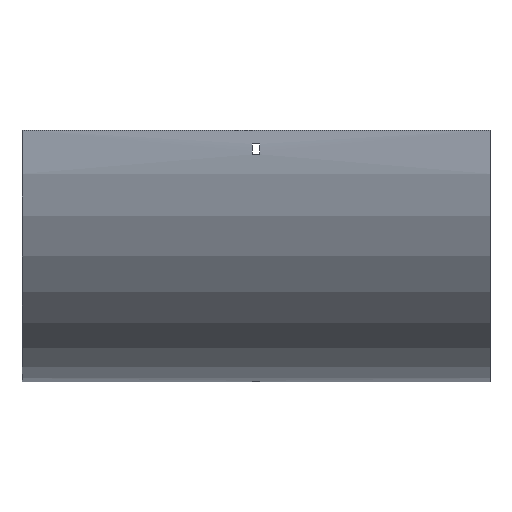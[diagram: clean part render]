
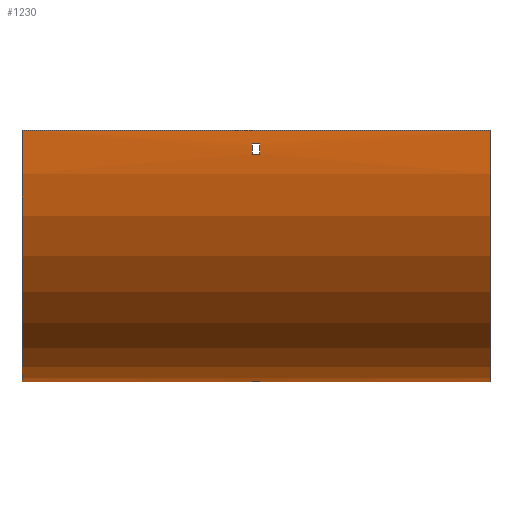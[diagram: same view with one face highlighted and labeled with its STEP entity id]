
A CAD part, front view. The second image highlights one B-rep face of the part: STEP entity #1230.
In plain terms, the highlighted cylindrical face has radius 217.5 mm (diameter 435 mm), a partial arc.
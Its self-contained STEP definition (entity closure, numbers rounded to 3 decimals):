
#11 = FACE_BOUND ( 'NONE', #386, .T. ) ;
#14 = DIRECTION ( 'NONE',  ( 0., 1., 0. ) ) ;
#15 = ORIENTED_EDGE ( 'NONE', *, *, #278, .T. ) ;
#37 = VERTEX_POINT ( 'NONE', #504 ) ;
#39 = DIRECTION ( 'NONE',  ( 1., 0., 0. ) ) ;
#75 = CIRCLE ( 'NONE', #1419, 217.5 ) ;
#78 = DIRECTION ( 'NONE',  ( 1., 0., 0. ) ) ;
#104 = CARTESIAN_POINT ( 'NONE',  ( -3.25, 100., 0. ) ) ;
#119 = EDGE_CURVE ( 'NONE', #1030, #777, #1142, .T. ) ;
#151 = CARTESIAN_POINT ( 'NONE',  ( -202., 100., 0. ) ) ;
#163 = AXIS2_PLACEMENT_3D ( 'NONE', #975, #968, #847 ) ;
#188 = VERTEX_POINT ( 'NONE', #1586 ) ;
#208 = ORIENTED_EDGE ( 'NONE', *, *, #1179, .T. ) ;
#223 = CARTESIAN_POINT ( 'NONE',  ( -3.25, -117.169, -12. ) ) ;
#236 = DIRECTION ( 'NONE',  ( -1., 0., 0. ) ) ;
#271 = DIRECTION ( 'NONE',  ( -1., 0., 0. ) ) ;
#278 = EDGE_CURVE ( 'NONE', #1677, #1139, #481, .T. ) ;
#282 = DIRECTION ( 'NONE',  ( 1., 0., 0. ) ) ;
#306 = CARTESIAN_POINT ( 'NONE',  ( 202., -117.169, -12. ) ) ;
#315 = EDGE_CURVE ( 'NONE', #392, #1139, #364, .T. ) ;
#350 = VECTOR ( 'NONE', #1291, 1000. ) ;
#352 = CARTESIAN_POINT ( 'NONE',  ( 3.25, 100., 0. ) ) ;
#364 = LINE ( 'NONE', #1020, #1447 ) ;
#386 = EDGE_LOOP ( 'NONE', ( #659, #1399, #1083, #1516 ) ) ;
#392 = VERTEX_POINT ( 'NONE', #1285 ) ;
#394 = EDGE_CURVE ( 'NONE', #957, #1644, #1255, .T. ) ;
#429 = CARTESIAN_POINT ( 'NONE',  ( 3.25, 79., -216.484 ) ) ;
#447 = CARTESIAN_POINT ( 'NONE',  ( -3.25, 88., -217.169 ) ) ;
#455 = CIRCLE ( 'NONE', #594, 217.5 ) ;
#459 = CARTESIAN_POINT ( 'NONE',  ( -202., 100., -217.5 ) ) ;
#463 = LINE ( 'NONE', #306, #517 ) ;
#481 = CIRCLE ( 'NONE', #652, 217.5 ) ;
#492 = DIRECTION ( 'NONE',  ( -1., 0., 0. ) ) ;
#504 = CARTESIAN_POINT ( 'NONE',  ( 3.25, -116.484, -21. ) ) ;
#517 = VECTOR ( 'NONE', #39, 1000. ) ;
#537 = DIRECTION ( 'NONE',  ( 0., 0., -1. ) ) ;
#547 = EDGE_CURVE ( 'NONE', #188, #1677, #1050, .T. ) ;
#571 = CARTESIAN_POINT ( 'NONE',  ( 202., 79., -216.484 ) ) ;
#594 = AXIS2_PLACEMENT_3D ( 'NONE', #600, #609, #1261 ) ;
#600 = CARTESIAN_POINT ( 'NONE',  ( 202., 100., 0. ) ) ;
#605 = EDGE_CURVE ( 'NONE', #1197, #957, #620, .T. ) ;
#609 = DIRECTION ( 'NONE',  ( 1., 0., 0. ) ) ;
#620 = CIRCLE ( 'NONE', #163, 217.5 ) ;
#642 = CARTESIAN_POINT ( 'NONE',  ( -202., -117.5, 0. ) ) ;
#651 = AXIS2_PLACEMENT_3D ( 'NONE', #104, #236, #1169 ) ;
#652 = AXIS2_PLACEMENT_3D ( 'NONE', #151, #670, #537 ) ;
#659 = ORIENTED_EDGE ( 'NONE', *, *, #862, .F. ) ;
#664 = DIRECTION ( 'NONE',  ( 0., 0., 1. ) ) ;
#670 = DIRECTION ( 'NONE',  ( 1., 0., 0. ) ) ;
#685 = VECTOR ( 'NONE', #923, 1000. ) ;
#690 = ORIENTED_EDGE ( 'NONE', *, *, #547, .T. ) ;
#708 = VECTOR ( 'NONE', #1669, 1000. ) ;
#735 = EDGE_LOOP ( 'NONE', ( #208, #802, #913, #1233 ) ) ;
#736 = CIRCLE ( 'NONE', #1066, 217.5 ) ;
#747 = CARTESIAN_POINT ( 'NONE',  ( -3.25, 79., -216.484 ) ) ;
#773 = CARTESIAN_POINT ( 'NONE',  ( 202., 88., -217.169 ) ) ;
#777 = VERTEX_POINT ( 'NONE', #223 ) ;
#802 = ORIENTED_EDGE ( 'NONE', *, *, #119, .T. ) ;
#846 = VECTOR ( 'NONE', #1539, 1000. ) ;
#847 = DIRECTION ( 'NONE',  ( 0., 0., 1. ) ) ;
#862 = EDGE_CURVE ( 'NONE', #1644, #1625, #75, .T. ) ;
#913 = ORIENTED_EDGE ( 'NONE', *, *, #1567, .T. ) ;
#923 = DIRECTION ( 'NONE',  ( -1., 0., 0. ) ) ;
#926 = ORIENTED_EDGE ( 'NONE', *, *, #1406, .F. ) ;
#957 = VERTEX_POINT ( 'NONE', #429 ) ;
#968 = DIRECTION ( 'NONE',  ( -1., 0., 0. ) ) ;
#975 = CARTESIAN_POINT ( 'NONE',  ( 3.25, 100., 0. ) ) ;
#1016 = LINE ( 'NONE', #1117, #846 ) ;
#1020 = CARTESIAN_POINT ( 'NONE',  ( 202., 100., -217.5 ) ) ;
#1030 = VERTEX_POINT ( 'NONE', #1211 ) ;
#1050 = LINE ( 'NONE', #1569, #685 ) ;
#1066 = AXIS2_PLACEMENT_3D ( 'NONE', #352, #78, #1638 ) ;
#1083 = ORIENTED_EDGE ( 'NONE', *, *, #605, .F. ) ;
#1104 = EDGE_LOOP ( 'NONE', ( #15, #1185, #926, #690 ) ) ;
#1109 = CARTESIAN_POINT ( 'NONE',  ( 3.25, 88., -217.169 ) ) ;
#1117 = CARTESIAN_POINT ( 'NONE',  ( 202., -116.484, -21. ) ) ;
#1133 = FACE_BOUND ( 'NONE', #735, .T. ) ;
#1134 = EDGE_CURVE ( 'NONE', #1272, #37, #736, .T. ) ;
#1139 = VERTEX_POINT ( 'NONE', #459 ) ;
#1142 = CIRCLE ( 'NONE', #651, 217.5 ) ;
#1169 = DIRECTION ( 'NONE',  ( 0., 0., 1. ) ) ;
#1179 = EDGE_CURVE ( 'NONE', #37, #1030, #1016, .T. ) ;
#1181 = CARTESIAN_POINT ( 'NONE',  ( 3.25, -117.169, -12. ) ) ;
#1185 = ORIENTED_EDGE ( 'NONE', *, *, #315, .F. ) ;
#1188 = CARTESIAN_POINT ( 'NONE',  ( 202., 100., 0. ) ) ;
#1197 = VERTEX_POINT ( 'NONE', #1109 ) ;
#1211 = CARTESIAN_POINT ( 'NONE',  ( -3.25, -116.484, -21. ) ) ;
#1227 = AXIS2_PLACEMENT_3D ( 'NONE', #1188, #271, #664 ) ;
#1230 = ADVANCED_FACE ( 'NONE', ( #1645, #1133, #11 ), #1672, .T. ) ;
#1233 = ORIENTED_EDGE ( 'NONE', *, *, #1134, .T. ) ;
#1255 = LINE ( 'NONE', #571, #708 ) ;
#1261 = DIRECTION ( 'NONE',  ( 0., 0., -1. ) ) ;
#1272 = VERTEX_POINT ( 'NONE', #1181 ) ;
#1285 = CARTESIAN_POINT ( 'NONE',  ( 202., 100., -217.5 ) ) ;
#1291 = DIRECTION ( 'NONE',  ( 1., 0., 0. ) ) ;
#1316 = EDGE_CURVE ( 'NONE', #1625, #1197, #1416, .T. ) ;
#1399 = ORIENTED_EDGE ( 'NONE', *, *, #394, .F. ) ;
#1406 = EDGE_CURVE ( 'NONE', #188, #392, #455, .T. ) ;
#1416 = LINE ( 'NONE', #773, #350 ) ;
#1419 = AXIS2_PLACEMENT_3D ( 'NONE', #1421, #282, #14 ) ;
#1421 = CARTESIAN_POINT ( 'NONE',  ( -3.25, 100., 0. ) ) ;
#1447 = VECTOR ( 'NONE', #492, 1000. ) ;
#1516 = ORIENTED_EDGE ( 'NONE', *, *, #1316, .F. ) ;
#1539 = DIRECTION ( 'NONE',  ( -1., 0., 0. ) ) ;
#1567 = EDGE_CURVE ( 'NONE', #777, #1272, #463, .T. ) ;
#1569 = CARTESIAN_POINT ( 'NONE',  ( 202., -117.5, 0. ) ) ;
#1586 = CARTESIAN_POINT ( 'NONE',  ( 202., -117.5, 0. ) ) ;
#1625 = VERTEX_POINT ( 'NONE', #447 ) ;
#1638 = DIRECTION ( 'NONE',  ( 0., 0., -1. ) ) ;
#1644 = VERTEX_POINT ( 'NONE', #747 ) ;
#1645 = FACE_OUTER_BOUND ( 'NONE', #1104, .T. ) ;
#1669 = DIRECTION ( 'NONE',  ( -1., 0., 0. ) ) ;
#1672 = CYLINDRICAL_SURFACE ( 'NONE', #1227, 217.5 ) ;
#1677 = VERTEX_POINT ( 'NONE', #642 ) ;
